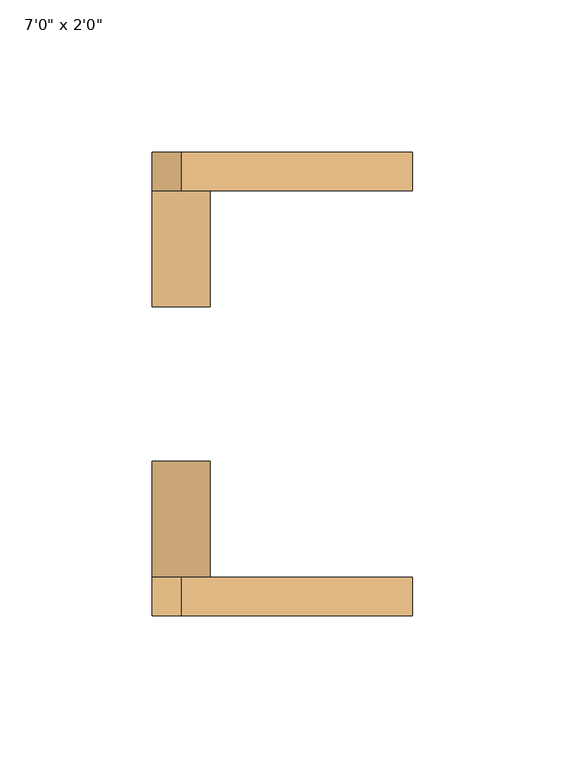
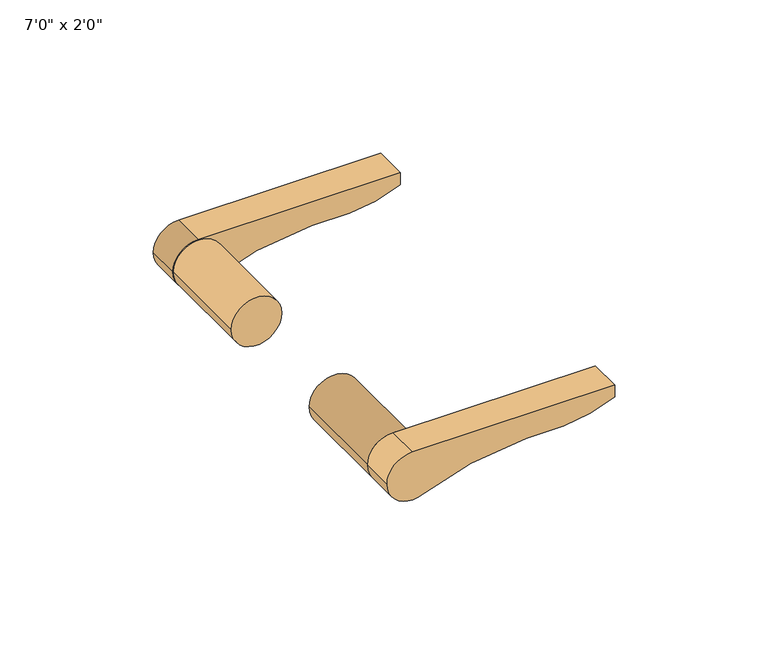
"""IFC4 building model written with IfcOpenShell, lengths in millimetres: door geometry."""

from ifc_helpers import new_model, si_unit, point, frame, frame_2d, origin, place, context, project, spatial, polyline, circle_curve, trimmed, segment, composite_curve, outline, extrude, source, transform, mapped, element, save


def door_accf3dfc(model_context):
    return source(origin(), model_context, "Body", "SweptSolid", [
        extrude(outline(composite_curve([segment(trimmed(circle_curve(frame_2d((1016.0, -241.3)), 9.525), [point((1016.0, -250.825))], [point((1006.7131627, -239.1833333))], False, "CARTESIAN"), True, "CONTINUOUS"), segment(trimmed(circle_curve(frame_2d((910.8226001, -195.8965958)), 105.2080873), [point((1006.7131627, -239.1833333))], [point((1016.0, -198.4375))], True, "CARTESIAN"), True, "CONTINUOUS"), segment(polyline([(1016.0, -198.4375), (1016.0, -184.2013442)]), True, "CONTINUOUS"), segment(trimmed(circle_curve(frame_2d((1066.7220571, -186.703389)), 50.7837307), [point((1016.0, -184.2013442))], [point((1020.7625, -165.1))], False, "CARTESIAN"), True, "CONTINUOUS"), segment(polyline([(1020.7625, -165.1), (1025.525, -165.1), (1025.525, -241.3)]), True, "CONTINUOUS"), segment(trimmed(circle_curve(frame_2d((1016.0, -241.3)), 9.525), [point((1025.525, -241.3))], [point((1016.0, -250.825))], False, "CARTESIAN"), True, "CONTINUOUS")], self_intersect=False)), frame((0.0, -50.8, 0.0), z_axis=(0.0, 1.0, 0.0), x_axis=(0.0, 0.0, 1.0)), (0.0, 0.0, 1.0), 12.7),
        extrude(outline(composite_curve([segment(trimmed(circle_curve(frame_2d((1016.0, -241.3)), 9.525), [point((1016.0, -250.825))], [point((1006.7131627, -239.1833333))], False, "CARTESIAN"), True, "CONTINUOUS"), segment(trimmed(circle_curve(frame_2d((910.8226001, -195.8965958)), 105.2080873), [point((1006.7131627, -239.1833333))], [point((1016.0, -198.4375))], True, "CARTESIAN"), True, "CONTINUOUS"), segment(polyline([(1016.0, -198.4375), (1016.0, -184.2013442)]), True, "CONTINUOUS"), segment(trimmed(circle_curve(frame_2d((1066.7220571, -186.703389)), 50.7837307), [point((1016.0, -184.2013442))], [point((1020.7625, -165.1))], False, "CARTESIAN"), True, "CONTINUOUS"), segment(polyline([(1020.7625, -165.1), (1025.525, -165.1), (1025.525, -241.3)]), True, "CONTINUOUS"), segment(trimmed(circle_curve(frame_2d((1016.0, -241.3)), 9.525), [point((1025.525, -241.3))], [point((1016.0, -250.825))], False, "CARTESIAN"), True, "CONTINUOUS")], self_intersect=False)), frame((0.0, 88.9, 0.0), z_axis=(0.0, 1.0, 0.0), x_axis=(0.0, 0.0, 1.0)), (0.0, 0.0, 1.0), 12.7),
        extrude(outline(composite_curve([segment(trimmed(circle_curve(frame_2d((1016.0, -241.3)), 9.525), [point((1016.0, -231.775))], [point((1016.0, -250.825))], False, "CARTESIAN"), True, "CONTINUOUS"), segment(trimmed(circle_curve(frame_2d((1016.0, -241.3)), 9.525), [point((1016.0, -250.825))], [point((1016.0, -231.775))], False, "CARTESIAN"), True, "CONTINUOUS")], self_intersect=False)), frame((0.0, 50.8, 0.0), z_axis=(0.0, 1.0, 0.0), x_axis=(0.0, 0.0, 1.0)), (0.0, 0.0, 1.0), 38.1),
        extrude(outline(composite_curve([segment(trimmed(circle_curve(frame_2d((1016.0, -241.3)), 9.525), [point((1016.0, -231.775))], [point((1016.0, -250.825))], False, "CARTESIAN"), True, "CONTINUOUS"), segment(trimmed(circle_curve(frame_2d((1016.0, -241.3)), 9.525), [point((1016.0, -250.825))], [point((1016.0, -231.775))], False, "CARTESIAN"), True, "CONTINUOUS")], self_intersect=False)), frame((0.0, -38.1, 0.0), z_axis=(0.0, 1.0, 0.0), x_axis=(0.0, 0.0, 1.0)), (0.0, 0.0, 1.0), 38.1),
    ])


if __name__ == "__main__":
    model = new_model("IFC4")
    model_context = context("Model", 3, world=origin())
    ifc_project = project(units=[si_unit("LENGTHUNIT", "METRE", prefix="MILLI")], contexts=[model_context])
    site = spatial("IfcSite", under=ifc_project)
    building = spatial("IfcBuilding", under=site)
    placement = place(None, origin())
    door_shape = door_accf3dfc(model_context)
    element("IfcDoor", 1, ObjectType="Planitar - Single Door_Swapper : 7'0\" x 2'0\"", at=placement, inside=building, context=model_context, shape_type="MappedRepresentation", body=[
        mapped(door_shape, transform((0.0, 0.0, 0.0), x_axis=(1.0, 0.0, 0.0), y_axis=(0.0, 1.0, 0.0), z_axis=(0.0, 0.0, 1.0))),
    ])
    save(model, "model.ifc")
